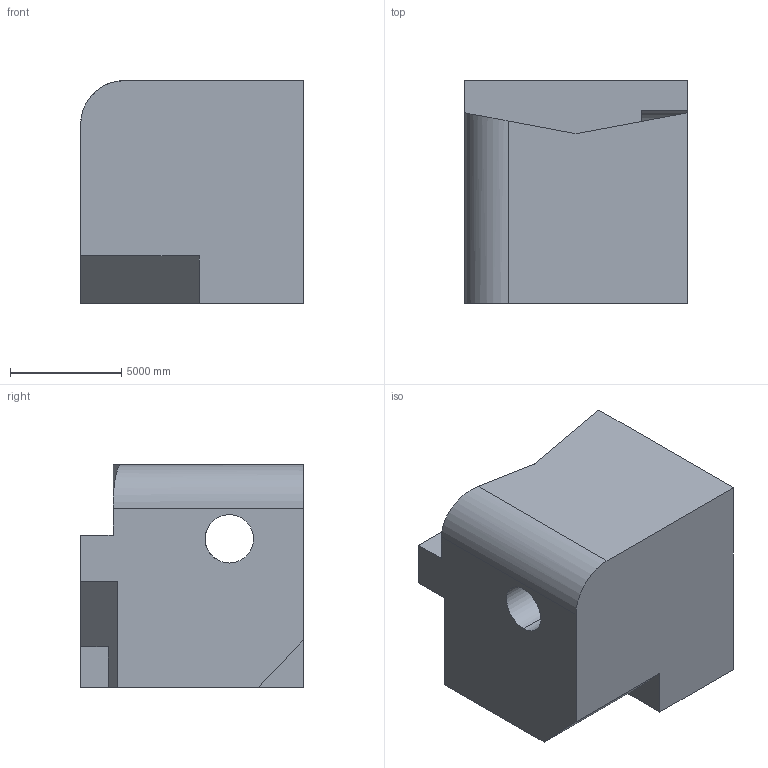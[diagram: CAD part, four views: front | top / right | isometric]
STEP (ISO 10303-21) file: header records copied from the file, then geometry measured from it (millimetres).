
FILE_DESCRIPTION (( 'STEP AP203' ), '1' );
FILE_NAME ('781.STEP', '2022-07-29T13:10:02', ( 'user' ), ( '' ), 'SwSTEP 2.0', 'SolidWorks 2021', '' );
FILE_SCHEMA (( 'CONFIG_CONTROL_DESIGN' ));
Length unit declared in the file: centimetre
Products named in the file (1): 781
Bounding box: 10000 x 10000 x 10000 mm (x, y, z)
Volume: 820343389161.4 mm3; surface area: 717450317.2 mm2
Topology: 1 solids, 1 shells, 37 faces, 105 edges, 70 vertices
Faces by surface type: plane 21, cylinder 16
Entity records: 1766 total; most frequent: CARTESIAN_POINT 720, ORIENTED_EDGE 210, DIRECTION 192, EDGE_CURVE 105, VERTEX_POINT 70, LINE 66, VECTOR 66, AXIS2_PLACEMENT_3D 63
